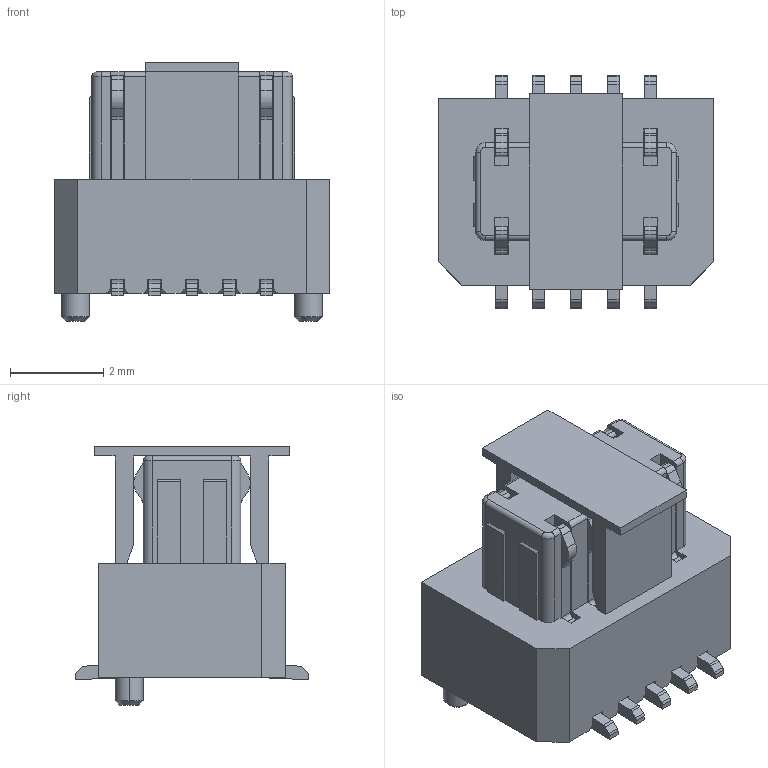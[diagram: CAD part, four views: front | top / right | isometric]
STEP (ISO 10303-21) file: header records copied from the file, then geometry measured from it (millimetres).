
FILE_DESCRIPTION(('CATIA V5 STEP Exchange'),'2;1');
FILE_NAME('F:\黄富鸿\板对板\PBB08B\公座\H4.8\带盖\HC-PBB08B-1-10-M-H4.8-XX-R-P-06 (BTB0.8 单槽 B型公座 立贴 带柱 编带+盖)-HCTL.stp','2026-01-28T02:18:01+00:00',('none'),('none'),'CATIA Version 5 Release 20 GA (IN-10)','CATIA V5 STEP AP203','none');
FILE_SCHEMA(('CONFIG_CONTROL_DESIGN'));
Length unit declared in the file: millimetre
Products named in the file (1): Part1
Bounding box: 5.9 x 5 x 5.55 mm (x, y, z)
Volume: 80.6 mm3; surface area: 347.9 mm2
Topology: 12 solids, 12 shells, 597 faces, 1738 edges, 1148 vertices
Faces by surface type: plane 407, cylinder 182, cone 4, torus 4
Entity records: 18316 total; most frequent: ORIENTED_EDGE 3476, CARTESIAN_POINT 3284, DIRECTION 2532, EDGE_CURVE 1738, VECTOR 1366, LINE 1366, VERTEX_POINT 1148, AXIS2_PLACEMENT_3D 770
